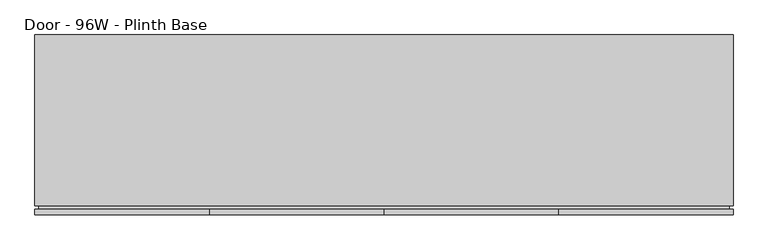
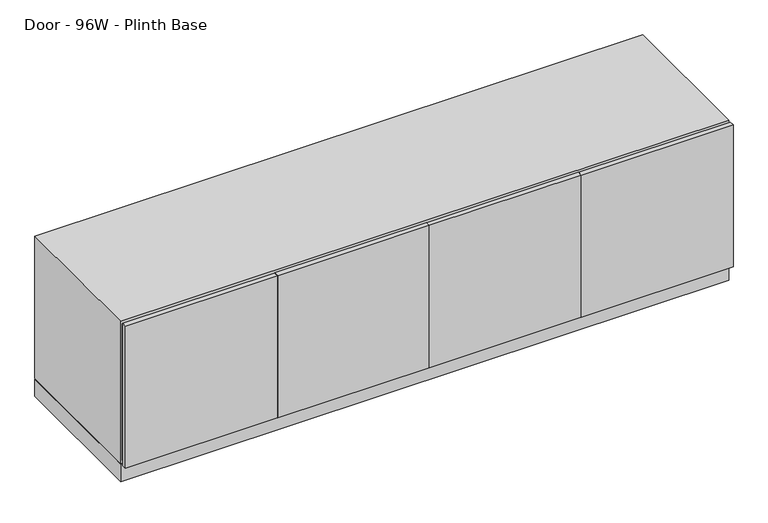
"""IFC4 building model written with IfcOpenShell, lengths in millimetres: furniture geometry, Steelcase Coalesse - Exponents - Storage - Credenza - 27H : Door - 96W - Plinth Base."""

from ifc_helpers import new_model, si_unit, point, frame, frame_2d, origin, origin_with_axes, place, context, project, spatial, polyline, circle_curve, trimmed, segment, composite_curve, outline, extrude, faceted_brep, source, transform, mapped, element, save


def door_96w_plinth_base_5fa30a09(model_context):
    return source(origin(), model_context, "Body", "SolidModel", [
        faceted_brep([(6.35, 31.75, 673.1), (6.35, 31.75, 95.25), (6.35, 622.3, 95.25), (6.35, 622.3, 673.1), (2432.05, 622.3, 95.25), (2432.05, 622.3, 673.1), (2432.05, 31.75, 95.25), (2432.05, 31.75, 673.1), (0.0, 31.75, 82.55), (2438.4, 31.75, 82.55), (2438.4, 31.75, 685.8), (0.0, 31.75, 685.8), (2438.4, 628.65, 82.55), (2438.4, 628.65, 685.8), (0.0, 628.65, 82.55), (0.0, 628.65, 685.8)], [[[0, 1, 2, 3]], [[3, 2, 4, 5]], [[5, 4, 6, 7]], [[8, 9, 10, 11], [7, 6, 1, 0]], [[10, 9, 12, 13]], [[13, 12, 14, 15]], [[15, 14, 8, 11]], [[7, 0, 3, 5]], [[10, 13, 15, 11]], [[1, 6, 4, 2]], [[12, 9, 8, 14]]]),
        extrude(outline(polyline([(673.1, 2425.7), (673.1, 12.7), (95.25, 12.7), (95.25, 2425.7), (673.1, 2425.7)]), holes=[polyline([(666.75, 2419.35), (101.6, 2419.35), (101.6, 19.05), (666.75, 19.05), (666.75, 2419.35)])]), frame((0.0, 19.05, 0.0), z_axis=(0.0, 1.0, 0.0), x_axis=(0.0, 0.0, 1.0)), (0.0, 0.0, 1.0), 31.75),
        extrude(outline(composite_curve([segment(trimmed(circle_curve(frame_2d((19.05, 593.5667033)), 6.35), [point((12.7, 593.5667033))], [point((25.4, 593.5667033))], False, "CARTESIAN"), True, "CONTINUOUS"), segment(trimmed(circle_curve(frame_2d((19.05, 593.5667033)), 6.35), [point((25.4, 593.5667033))], [point((12.7, 593.5667033))], False, "CARTESIAN"), True, "CONTINUOUS")], self_intersect=False)), origin_with_axes(), (0.0, 0.0, 1.0), 6.35),
        extrude(outline(composite_curve([segment(trimmed(circle_curve(frame_2d((19.05, 66.7867854)), 6.35), [point((12.7, 66.7867854))], [point((25.4, 66.7867854))], False, "CARTESIAN"), True, "CONTINUOUS"), segment(trimmed(circle_curve(frame_2d((19.05, 66.7867854)), 6.35), [point((25.4, 66.7867854))], [point((12.7, 66.7867854))], False, "CARTESIAN"), True, "CONTINUOUS")], self_intersect=False)), origin_with_axes(), (0.0, 0.0, 1.0), 6.35),
        extrude(outline(composite_curve([segment(trimmed(circle_curve(frame_2d((2419.35, 593.5667033)), 6.35), [point((2413.0, 593.5667033))], [point((2425.7, 593.5667033))], False, "CARTESIAN"), True, "CONTINUOUS"), segment(trimmed(circle_curve(frame_2d((2419.35, 593.5667033)), 6.35), [point((2425.7, 593.5667033))], [point((2413.0, 593.5667033))], False, "CARTESIAN"), True, "CONTINUOUS")], self_intersect=False)), origin_with_axes(), (0.0, 0.0, 1.0), 6.35),
        extrude(outline(composite_curve([segment(trimmed(circle_curve(frame_2d((2419.35, 66.7867854)), 6.35), [point((2413.0, 66.7867854))], [point((2425.7, 66.7867854))], False, "CARTESIAN"), True, "CONTINUOUS"), segment(trimmed(circle_curve(frame_2d((2419.35, 66.7867854)), 6.35), [point((2425.7, 66.7867854))], [point((2413.0, 66.7867854))], False, "CARTESIAN"), True, "CONTINUOUS")], self_intersect=False)), origin_with_axes(), (0.0, 0.0, 1.0), 6.35),
        extrude(outline(polyline([(2438.4, 19.05), (2438.4, 0.0), (1829.435, 0.0), (1829.435, 19.05), (2438.4, 19.05)])), frame((0.0, 0.0, 82.55), z_axis=(0.0, 0.0, 1.0), x_axis=(1.0, 0.0, 0.0)), (0.0, 0.0, 1.0), 603.25),
        extrude(outline(polyline([(1827.8348, 19.05), (1827.8348, 0.0), (1220.0128, 0.0), (1220.0128, 19.05), (1827.8348, 19.05)])), frame((0.0, 0.0, 82.55), z_axis=(0.0, 0.0, 1.0), x_axis=(1.0, 0.0, 0.0)), (0.0, 0.0, 1.0), 603.25),
        extrude(outline(polyline([(1218.4126, 19.05), (1218.4126, 0.0), (610.5652, 0.0), (610.5652, 19.05), (1218.4126, 19.05)])), frame((0.0, 0.0, 82.55), z_axis=(0.0, 0.0, 1.0), x_axis=(1.0, 0.0, 0.0)), (0.0, 0.0, 1.0), 603.25),
        extrude(outline(polyline([(608.965, 19.05), (608.965, 0.0), (0.0, 0.0), (0.0, 19.05), (608.965, 19.05)])), frame((0.0, 0.0, 82.55), z_axis=(0.0, 0.0, 1.0), x_axis=(1.0, 0.0, 0.0)), (0.0, 0.0, 1.0), 603.25),
        extrude(outline(polyline([(0.0, -19.05), (0.0, 0.0), (31.75, 0.0), (31.75, -19.05), (0.0, -19.05)])), frame((1828.8, 19.05, 101.6), z_axis=(2.934541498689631e-12, 0.0, 1.0), x_axis=(0.0, 1.0, 0.0)), (0.0, 0.0, 1.0), 565.15),
        extrude(outline(polyline([(0.0, -19.05), (0.0, 0.0), (31.75, 0.0), (31.75, -19.05), (0.0, -19.05)])), frame((1209.675, 19.05, 101.6), z_axis=(3.1477043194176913e-12, 0.0, 1.0), x_axis=(0.0, 1.0, 0.0)), (0.0, 0.0, 1.0), 565.15),
        extrude(outline(polyline([(0.0, -19.05), (0.0, 0.0), (31.75, 0.0), (31.75, -19.05), (0.0, -19.05)])), frame((590.55, 19.05, 101.6), z_axis=(3.3608671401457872e-12, 0.0, 1.0), x_axis=(0.0, 1.0, 0.0)), (0.0, 0.0, 1.0), 565.15),
        extrude(outline(polyline([(1209.675, 609.6), (1228.725, 609.6), (1228.725, 50.8), (1209.675, 50.8), (1209.675, 609.6)])), frame((0.0, 0.0, 95.25), z_axis=(0.0, 0.0, 1.0), x_axis=(1.0, 0.0, 0.0)), (0.0, 0.0, 1.0), 577.85),
        extrude(outline(polyline([(1828.8, 609.6), (1847.85, 609.6), (1847.85, 50.8), (1828.8, 50.8), (1828.8, 609.6)])), frame((0.0, 0.0, 95.25), z_axis=(0.0, 0.0, 1.0), x_axis=(1.0, 0.0, 0.0)), (0.0, 0.0, 1.0), 577.85),
        extrude(outline(polyline([(1828.8, 50.8), (1228.725, 50.8), (1228.725, 609.6), (1828.8, 609.6), (1828.8, 50.8)])), frame((0.0, 0.0, 371.475), z_axis=(0.0, 0.0, 1.0), x_axis=(1.0, 0.0, 0.0)), (0.0, 0.0, 1.0), 19.05),
        extrude(outline(polyline([(1209.675, 50.8), (609.6, 50.8), (609.6, 609.6), (1209.675, 609.6), (1209.675, 50.8)])), frame((0.0, 0.0, 371.475), z_axis=(0.0, 0.0, 1.0), x_axis=(1.0, 0.0, 0.0)), (0.0, 0.0, 1.0), 19.05),
        extrude(outline(polyline([(2438.4, 628.65), (2438.4, 31.75), (0.0, 31.75), (0.0, 628.65), (2438.4, 628.65)]), holes=[polyline([(2419.35, 622.3), (19.05, 622.3), (19.05, 38.1), (2419.35, 38.1), (2419.35, 622.3)])]), frame((0.0, 0.0, 6.35), z_axis=(0.0, 0.0, 1.0), x_axis=(1.0, 0.0, 0.0)), (0.0, 0.0, 1.0), 73.4568),
        extrude(outline(polyline([(590.55, 609.6), (609.6, 609.6), (609.6, 50.8), (590.55, 50.8), (590.55, 609.6)])), frame((0.0, 0.0, 95.25), z_axis=(0.0, 0.0, 1.0), x_axis=(1.0, 0.0, 0.0)), (0.0, 0.0, 1.0), 577.85),
    ])


if __name__ == "__main__":
    model = new_model("IFC4")
    model_context = context("Model", 3, world=origin())
    ifc_project = project(units=[si_unit("LENGTHUNIT", "METRE", prefix="MILLI")], contexts=[model_context])
    site = spatial("IfcSite", under=ifc_project)
    building = spatial("IfcBuilding", under=site)
    placement = place(None, origin())
    door_96w_plinth_base_shape = door_96w_plinth_base_5fa30a09(model_context)
    element("IfcFurniture", 1, ObjectType="Steelcase Coalesse - Exponents - Storage - Credenza - 27H : Door - 96W - Plinth Base", at=placement, inside=building, context=model_context, shape_type="MappedRepresentation", body=[
        mapped(door_96w_plinth_base_shape, transform((0.0, 0.0, 0.0), x_axis=(1.0, 0.0, 0.0), y_axis=(0.0, 1.0, 0.0), z_axis=(0.0, 0.0, 1.0))),
    ])
    save(model, "model.ifc")
